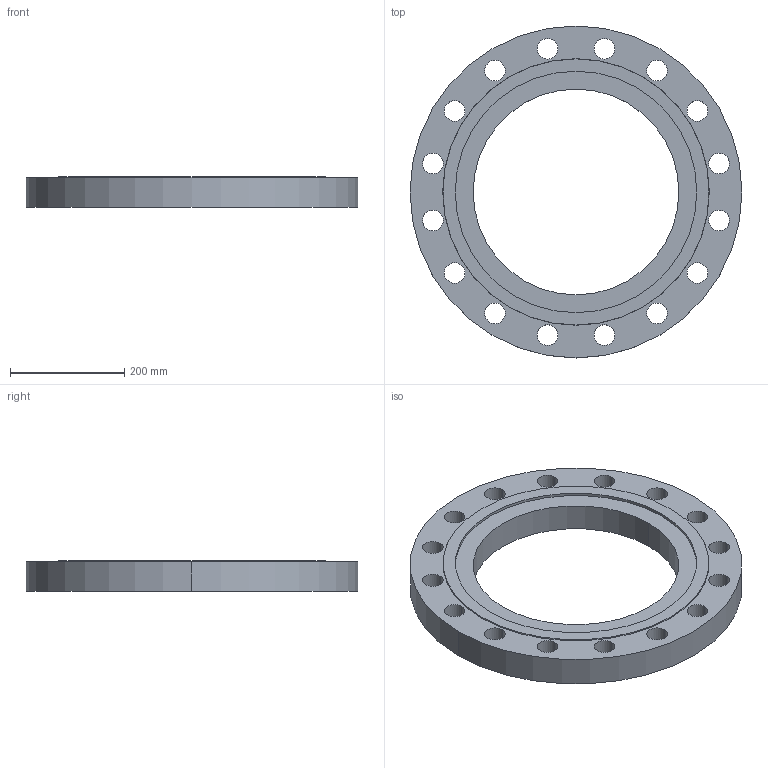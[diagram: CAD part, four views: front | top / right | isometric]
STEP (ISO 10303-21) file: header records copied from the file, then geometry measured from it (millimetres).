
FILE_DESCRIPTION (( 'STEP AP214' ), '1' );
FILE_NAME ('PN40 DN350 Type 01 - Type F Face.STEP', '2019-01-05T21:58:56', ( '' ), ( '' ), 'SwSTEP 2.0', 'SolidWorks 2019', '' );
FILE_SCHEMA (( 'AUTOMOTIVE_DESIGN' ));
Length unit declared in the file: millimetre
Products named in the file (1): PN40 DN350 Type 01 - Type F Face
Bounding box: 580 x 580 x 54 mm (x, y, z)
Volume: 7559019.1 mm3; surface area: 546104.1 mm2
Topology: 1 solids, 1 shells, 44 faces, 120 edges, 80 vertices
Faces by surface type: cylinder 38, plane 4, cone 2
Entity records: 1546 total; most frequent: DIRECTION 290, CARTESIAN_POINT 245, ORIENTED_EDGE 240, AXIS2_PLACEMENT_3D 125, EDGE_CURVE 120, CIRCLE 80, EDGE_LOOP 80, VERTEX_POINT 80
